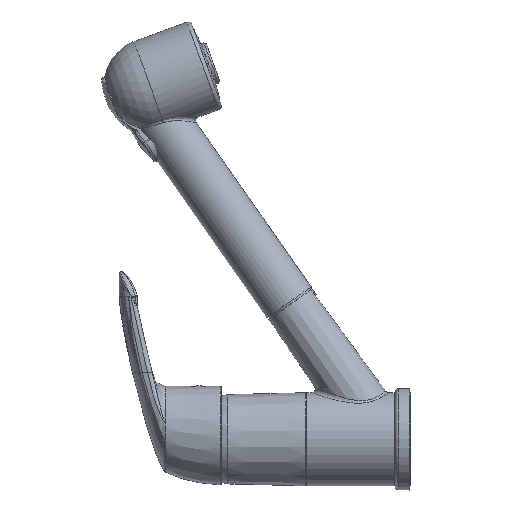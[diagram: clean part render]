
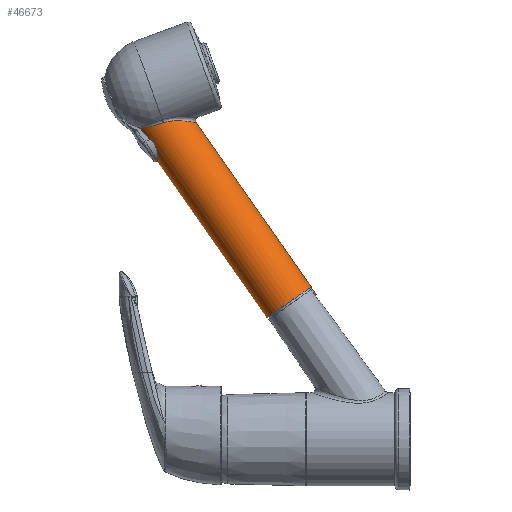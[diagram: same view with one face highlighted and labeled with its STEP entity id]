
A CAD part, left-side view. The second image highlights one B-rep face of the part: STEP entity #46673.
In plain terms, the highlighted cylindrical face has radius 14.5 mm (diameter 29 mm), a full revolution.
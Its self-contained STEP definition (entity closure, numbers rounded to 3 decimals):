
#2959=FACE_BOUND($,#8329,.T.);
#5488=FACE_OUTER_BOUND($,#8328,.T.);
#8328=EDGE_LOOP($,(#43326,#43327,#43328,#43329,#43330,#43331));
#8329=EDGE_LOOP($,(#43332,#43333,#43334));
#8989=B_SPLINE_CURVE_WITH_KNOTS($,3,(#85711,#85712,#85713,#85714,#85715,
#85716,#85717,#85718,#85719,#85720,#85721,#85722,#85723,#85724),
 .UNSPECIFIED.,.F.,.F.,(4,1,1,1,1,1,1,1,1,1,1,4),(0.,0.396,0.793,
1.585,2.114,2.378,2.906,3.17,
3.963,4.755,5.152,5.548),
 .UNSPECIFIED.);
#8991=B_SPLINE_CURVE_WITH_KNOTS($,3,(#85757,#85758,#85759,#85760,#85761,
#85762),.UNSPECIFIED.,.F.,.F.,(4,1,1,4),(-1.625,-0.966,
-0.483,0.),.UNSPECIFIED.);
#8995=B_SPLINE_CURVE_WITH_KNOTS($,3,(#85802,#85803,#85804,#85805,#85806),
 .UNSPECIFIED.,.F.,.F.,(4,1,4),(10.518,11.243,12.143),
 .UNSPECIFIED.);
#9000=B_SPLINE_CURVE_WITH_KNOTS($,3,(#85844,#85845,#85846,#85847,#85848,
#85849),.UNSPECIFIED.,.F.,.F.,(4,2,4),(2.539,2.95,
3.252),.UNSPECIFIED.);
#9020=B_SPLINE_CURVE_WITH_KNOTS($,3,(#86308,#86309,#86310,#86311,#86312,
#86313),.UNSPECIFIED.,.F.,.F.,(4,2,4),(1.802,2.103,
2.514),.UNSPECIFIED.);
#9024=B_SPLINE_CURVE_WITH_KNOTS($,3,(#86423,#86424,#86425,#86426,#86427,
#86428,#86429,#86430,#86431,#86432,#86433,#86434,#86435,#86436,#86437,#86438,
#86439,#86440,#86441,#86442,#86443,#86444,#86445,#86446,#86447,#86448,#86449),
 .UNSPECIFIED.,.F.,.F.,(4,2,2,2,2,2,2,2,2,2,2,3,4),(-3.346,-3.068,
-2.879,-2.69,-2.313,-1.923,
-1.534,-1.145,-0.755,-0.378,
-0.189,0.,0.279),.UNSPECIFIED.);
#19620=CIRCLE($,#49728,14.5);
#19621=CIRCLE($,#49730,14.5);
#19623=CIRCLE($,#49734,14.5);
#23548=VERTEX_POINT($,#84237);
#23552=VERTEX_POINT($,#84247);
#23553=VERTEX_POINT($,#84251);
#23884=VERTEX_POINT($,#85707);
#23885=VERTEX_POINT($,#85709);
#23886=VERTEX_POINT($,#85749);
#23889=VERTEX_POINT($,#85790);
#23895=VERTEX_POINT($,#85842);
#23913=VERTEX_POINT($,#86307);
#29851=EDGE_CURVE($,#23553,#23552,#19620,.T.);
#29853=EDGE_CURVE($,#23548,#23553,#19621,.T.);
#29856=EDGE_CURVE($,#23552,#23548,#19623,.T.);
#30350=EDGE_CURVE($,#23885,#23884,#8989,.T.);
#30352=EDGE_CURVE($,#23886,#23885,#8991,.T.);
#30356=EDGE_CURVE($,#23884,#23889,#8995,.T.);
#30363=EDGE_CURVE($,#23886,#23895,#9000,.T.);
#30392=EDGE_CURVE($,#23913,#23889,#9020,.T.);
#30399=EDGE_CURVE($,#23895,#23913,#9024,.T.);
#43326=ORIENTED_EDGE($,*,*,#30352,.F.);
#43327=ORIENTED_EDGE($,*,*,#30363,.T.);
#43328=ORIENTED_EDGE($,*,*,#30399,.T.);
#43329=ORIENTED_EDGE($,*,*,#30392,.T.);
#43330=ORIENTED_EDGE($,*,*,#30356,.F.);
#43331=ORIENTED_EDGE($,*,*,#30350,.F.);
#43332=ORIENTED_EDGE($,*,*,#29856,.F.);
#43333=ORIENTED_EDGE($,*,*,#29851,.F.);
#43334=ORIENTED_EDGE($,*,*,#29853,.F.);
#44243=CYLINDRICAL_SURFACE($,#49973,14.5);
#46673=ADVANCED_FACE($,(#5488,#2959),#44243,.T.);
#49728=AXIS2_PLACEMENT_3D($,#84252,#60330,#60331);
#49730=AXIS2_PLACEMENT_3D($,#84255,#60335,#60336);
#49734=AXIS2_PLACEMENT_3D($,#84260,#60344,#60345);
#49973=AXIS2_PLACEMENT_3D($,#86450,#61146,#61147);
#60330=DIRECTION('center_axis',(-0.966,-0.259,0.));
#60331=DIRECTION('ref_axis',(0.259,-0.966,0.));
#60335=DIRECTION('center_axis',(-0.966,-0.259,0.));
#60336=DIRECTION('ref_axis',(0.259,-0.966,0.));
#60344=DIRECTION('center_axis',(-0.966,-0.259,0.));
#60345=DIRECTION('ref_axis',(0.259,-0.966,0.));
#61146=DIRECTION('center_axis',(0.966,0.259,0.));
#61147=DIRECTION('ref_axis',(0.259,-0.966,0.));
#84237=CARTESIAN_POINT('',(-131.513,-12.107,-2.));
#84247=CARTESIAN_POINT('',(-131.513,-12.107,2.));
#84251=CARTESIAN_POINT('',(-131.477,-12.241,0.));
#84252=CARTESIAN_POINT('Origin',(-135.23,1.765,0.));
#84255=CARTESIAN_POINT('Origin',(-135.23,1.765,0.));
#84260=CARTESIAN_POINT('Origin',(-135.23,1.765,0.));
#85707=CARTESIAN_POINT('',(-21.382,32.031,-14.498));
#85709=CARTESIAN_POINT('',(-21.382,32.031,14.498));
#85711=CARTESIAN_POINT('Ctrl Pts',(-21.382,32.031,14.498));
#85712=CARTESIAN_POINT('Ctrl Pts',(-21.437,30.859,14.48));
#85713=CARTESIAN_POINT('Ctrl Pts',(-21.779,28.506,14.185));
#85714=CARTESIAN_POINT('Ctrl Pts',(-23.102,24.103,12.732));
#85715=CARTESIAN_POINT('Ctrl Pts',(-25.061,19.957,9.984));
#85716=CARTESIAN_POINT('Ctrl Pts',(-26.585,17.21,6.314));
#85717=CARTESIAN_POINT('Ctrl Pts',(-27.433,15.755,2.723));
#85718=CARTESIAN_POINT('Ctrl Pts',(-27.621,15.442,-0.415));
#85719=CARTESIAN_POINT('Ctrl Pts',(-27.071,16.368,-5.006));
#85720=CARTESIAN_POINT('Ctrl Pts',(-25.357,19.332,-9.584));
#85721=CARTESIAN_POINT('Ctrl Pts',(-23.1,24.11,-12.73));
#85722=CARTESIAN_POINT('Ctrl Pts',(-21.78,28.5,-14.186));
#85723=CARTESIAN_POINT('Ctrl Pts',(-21.437,30.859,-14.48));
#85724=CARTESIAN_POINT('Ctrl Pts',(-21.382,32.031,-14.498));
#85749=CARTESIAN_POINT('',(-20.364,44.674,8.541));
#85757=CARTESIAN_POINT('Ctrl Pts',(-20.364,44.674,8.541));
#85758=CARTESIAN_POINT('Ctrl Pts',(-20.509,43.472,10.081));
#85759=CARTESIAN_POINT('Ctrl Pts',(-20.794,40.858,12.327));
#85760=CARTESIAN_POINT('Ctrl Pts',(-21.149,36.356,14.173));
#85761=CARTESIAN_POINT('Ctrl Pts',(-21.314,33.46,14.52));
#85762=CARTESIAN_POINT('Ctrl Pts',(-21.382,32.031,14.498));
#85790=CARTESIAN_POINT('',(-20.364,44.674,-8.541));
#85802=CARTESIAN_POINT('Ctrl Pts',(-21.382,32.031,-14.498));
#85803=CARTESIAN_POINT('Ctrl Pts',(-21.28,34.174,-14.531));
#85804=CARTESIAN_POINT('Ctrl Pts',(-20.98,39.043,-13.614));
#85805=CARTESIAN_POINT('Ctrl Pts',(-20.562,43.032,-10.646));
#85806=CARTESIAN_POINT('Ctrl Pts',(-20.364,44.674,-8.541));
#85842=CARTESIAN_POINT('',(-27.389,41.862,9.653));
#85844=CARTESIAN_POINT('Ctrl Pts',(-20.364,44.674,8.541));
#85845=CARTESIAN_POINT('Ctrl Pts',(-21.731,44.257,8.609));
#85846=CARTESIAN_POINT('Ctrl Pts',(-23.134,43.762,8.767));
#85847=CARTESIAN_POINT('Ctrl Pts',(-25.492,42.789,9.184));
#85848=CARTESIAN_POINT('Ctrl Pts',(-26.466,42.34,9.404));
#85849=CARTESIAN_POINT('Ctrl Pts',(-27.389,41.862,9.653));
#86307=CARTESIAN_POINT('',(-27.389,41.862,-9.653));
#86308=CARTESIAN_POINT('Ctrl Pts',(-27.389,41.862,-9.653));
#86309=CARTESIAN_POINT('Ctrl Pts',(-26.466,42.34,-9.404));
#86310=CARTESIAN_POINT('Ctrl Pts',(-25.492,42.789,-9.184));
#86311=CARTESIAN_POINT('Ctrl Pts',(-23.134,43.762,-8.767));
#86312=CARTESIAN_POINT('Ctrl Pts',(-21.731,44.257,-8.609));
#86313=CARTESIAN_POINT('Ctrl Pts',(-20.364,44.674,-8.541));
#86423=CARTESIAN_POINT('Ctrl Pts',(-27.389,41.862,9.653));
#86424=CARTESIAN_POINT('Ctrl Pts',(-28.224,41.43,9.879));
#86425=CARTESIAN_POINT('Ctrl Pts',(-29.105,41.072,10.));
#86426=CARTESIAN_POINT('Ctrl Pts',(-30.608,40.669,10.));
#86427=CARTESIAN_POINT('Ctrl Pts',(-31.243,40.556,9.944));
#86428=CARTESIAN_POINT('Ctrl Pts',(-32.512,40.447,9.701));
#86429=CARTESIAN_POINT('Ctrl Pts',(-33.147,40.451,9.515));
#86430=CARTESIAN_POINT('Ctrl Pts',(-34.973,40.598,8.775));
#86431=CARTESIAN_POINT('Ctrl Pts',(-36.089,40.873,8.027));
#86432=CARTESIAN_POINT('Ctrl Pts',(-37.88,41.419,6.286));
#86433=CARTESIAN_POINT('Ctrl Pts',(-38.672,41.73,5.161));
#86434=CARTESIAN_POINT('Ctrl Pts',(-39.732,42.17,2.668));
#86435=CARTESIAN_POINT('Ctrl Pts',(-40.,42.294,1.298));
#86436=CARTESIAN_POINT('Ctrl Pts',(-40.,42.294,-1.298));
#86437=CARTESIAN_POINT('Ctrl Pts',(-39.732,42.17,-2.668));
#86438=CARTESIAN_POINT('Ctrl Pts',(-38.672,41.73,-5.161));
#86439=CARTESIAN_POINT('Ctrl Pts',(-37.88,41.419,-6.286));
#86440=CARTESIAN_POINT('Ctrl Pts',(-36.089,40.873,-8.027));
#86441=CARTESIAN_POINT('Ctrl Pts',(-34.973,40.598,-8.775));
#86442=CARTESIAN_POINT('Ctrl Pts',(-33.147,40.451,-9.515));
#86443=CARTESIAN_POINT('Ctrl Pts',(-32.512,40.447,-9.701));
#86444=CARTESIAN_POINT('Ctrl Pts',(-31.243,40.556,-9.944));
#86445=CARTESIAN_POINT('Ctrl Pts',(-30.608,40.669,-10.));
#86446=CARTESIAN_POINT('Ctrl Pts',(-30.,40.832,-10.));
#86447=CARTESIAN_POINT('Ctrl Pts',(-29.103,41.072,-10.));
#86448=CARTESIAN_POINT('Ctrl Pts',(-28.223,41.431,-9.879));
#86449=CARTESIAN_POINT('Ctrl Pts',(-27.389,41.862,-9.653));
#86450=CARTESIAN_POINT('Origin',(-135.23,1.765,0.));
